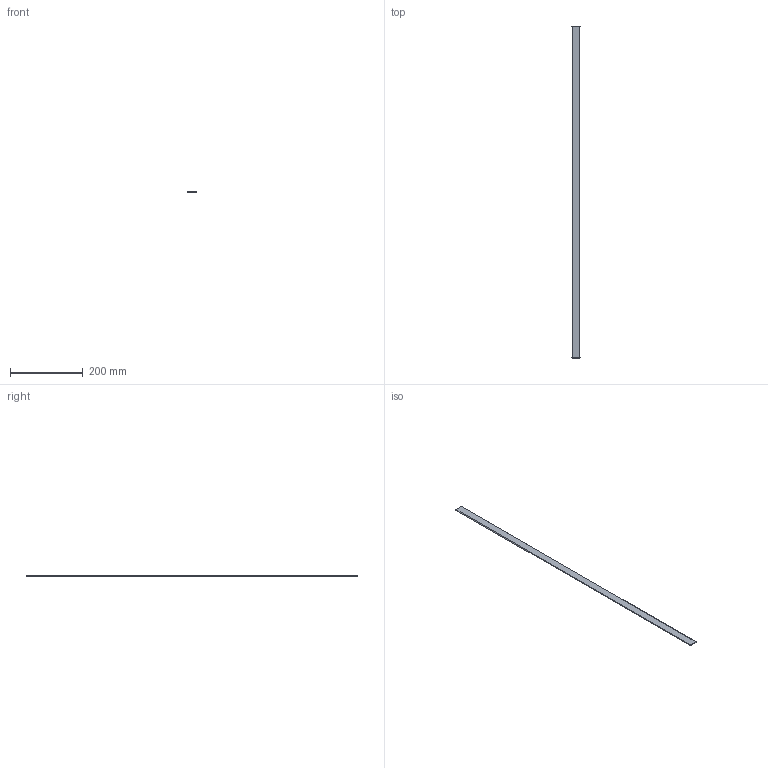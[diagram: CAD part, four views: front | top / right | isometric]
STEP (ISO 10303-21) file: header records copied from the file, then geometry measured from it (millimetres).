
FILE_DESCRIPTION(/* description */ (''),/* implementation_level */ '2;1');
FILE_NAME(/* name */ 'C:/Users/drich/Desktop/BM34-9 v1.step',/* time_stamp */ '2020-01-04T15:39:25-06:00',/* author */ (''),/* organization */ (''),/* preprocessor_version */ 'ST-DEVELOPER v18',/* originating_system */ 'Autodesk Translation Framework v8.12.0.6',/* authorisation */ '');
FILE_SCHEMA (('AUTOMOTIVE_DESIGN { 1 0 10303 214 3 1 1 }'));
Length unit declared in the file: inch
Products named in the file (1): BM34-9
Bounding box: 22.84 x 914.4 x 2.36 mm (x, y, z)
Volume: 48282.5 mm3; surface area: 44377.8 mm2
Topology: 1 solids, 1 shells, 6 faces, 12 edges, 8 vertices
Faces by surface type: plane 4, cylinder 2
Entity records: 202 total; most frequent: DIRECTION 30, CARTESIAN_POINT 27, ORIENTED_EDGE 24, EDGE_CURVE 12, AXIS2_PLACEMENT_3D 11, LINE 8, VECTOR 8, VERTEX_POINT 8
